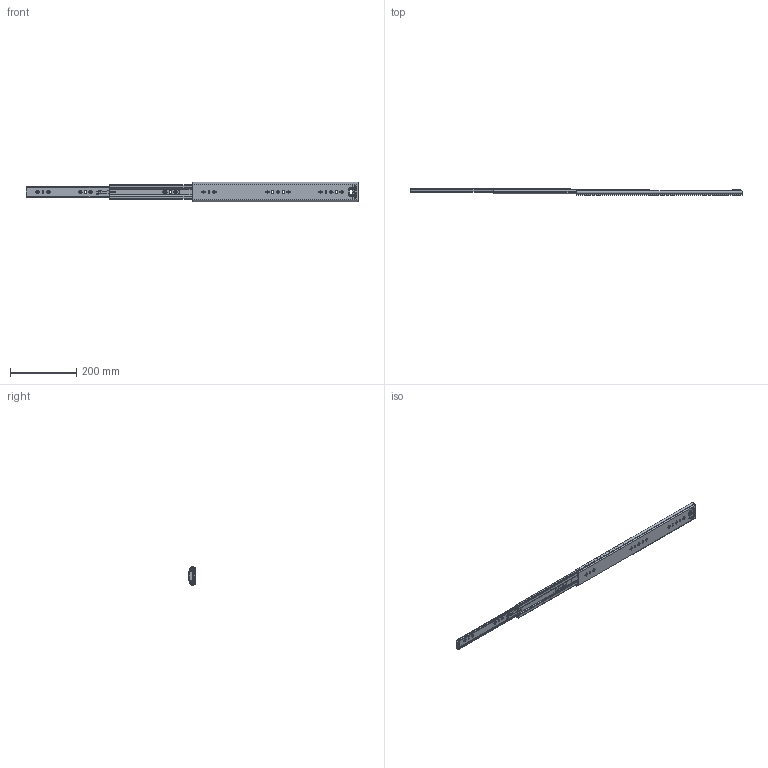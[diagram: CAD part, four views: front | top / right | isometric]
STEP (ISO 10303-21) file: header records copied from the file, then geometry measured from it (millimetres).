
FILE_DESCRIPTION((''),'2;1');
FILE_NAME('1057-02-20_ASM','2023-12-23T',('jishu015'),(''),'PRO/ENGINEER BY PARAMETRIC TECHNOLOGY CORPORATION, 2010280','PRO/ENGINEER BY PARAMETRIC TECHNOLOGY CORPORATION, 2010280','');
FILE_SCHEMA(('CONFIG_CONTROL_DESIGN'));
Products named in the file (14): KP-57-01WEIKE-18__; 1057WEIJIAO__; 1057DAZHUJIA-14GE__; 1057-5-6GANZHU__; 1057DAZHUJIA-14GE___ASM; KP-57-01ZHONGGUI-18__; 57-ZHONGGUIDINWEIJIAN__; KP-57-01ZHONGGUI-18___ASM; 1057XIAOZHUJIA__; 1057XIAOZHUJIA-14GE___ASM; KP-57-01NEIGUI-18__; 45TIEBACHA__; KP-57-01NEIGUI-18___ASM; 1057-02-20_ASM
Assembly tree (80 placements, depth 3):
  1057-02-20_ASM
    KP-57-01WEIKE-18__
    1057WEIJIAO__
    1057DAZHUJIA-14GE___ASM
      1057DAZHUJIA-14GE__
      1057-5-6GANZHU__  x32
    KP-57-01ZHONGGUI-18___ASM
      KP-57-01ZHONGGUI-18__
      57-ZHONGGUIDINWEIJIAN__
    1057XIAOZHUJIA-14GE___ASM
      1057XIAOZHUJIA__
      1057-5-6GANZHU__  x36
    KP-57-01NEIGUI-18___ASM
      KP-57-01NEIGUI-18__
      45TIEBACHA__
Bounding box: 1000 x 19 x 57.67 mm (x, y, z)
Volume: 216604.1 mm3; surface area: 251683.8 mm2
Topology: 76 solids, 78 shells, 2152 faces, 6027 edges, 3748 vertices
Faces by surface type: plane 1016, cylinder 870, sphere 144, cone 74, bspline 42, torus 6
Entity records: 68151 total; most frequent: CARTESIAN_POINT 14106, DIRECTION 11441, ORIENTED_EDGE 11222, EDGE_CURVE 5613, AXIS2_PLACEMENT_3D 3924, VERTEX_POINT 3614, VECTOR 3593, LINE 3593
